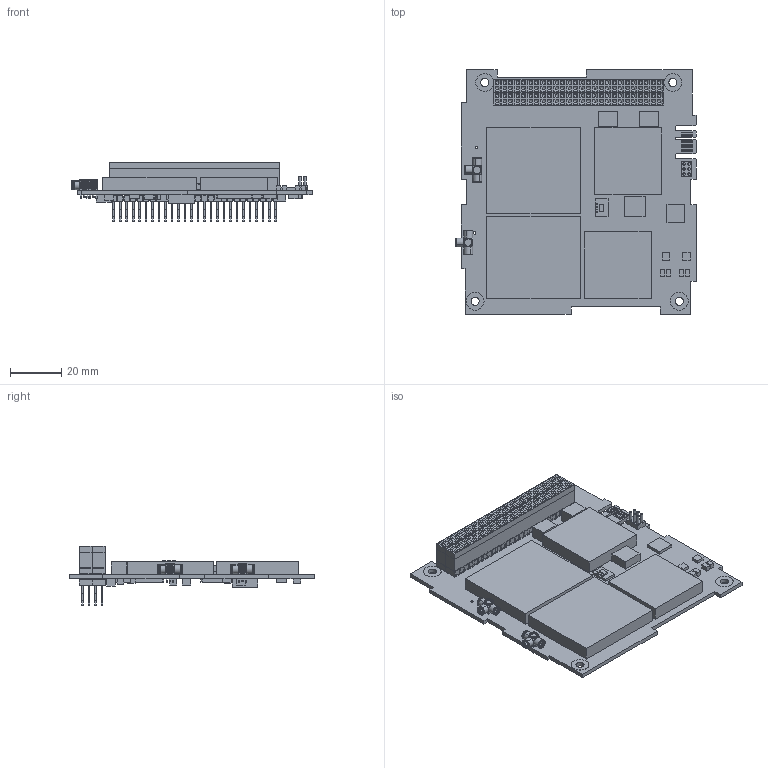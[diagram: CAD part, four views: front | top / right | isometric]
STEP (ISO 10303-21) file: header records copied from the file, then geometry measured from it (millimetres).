
FILE_DESCRIPTION((''),'2;1');
FILE_NAME('ISIS_TRXVU_ASMB_ASM','2017-05-10T',('jmig'),(''),'PRO/ENGINEER BY PARAMETRIC TECHNOLOGY CORPORATION, 2015110','PRO/ENGINEER BY PARAMETRIC TECHNOLOGY CORPORATION, 2015110','');
FILE_SCHEMA(('AUTOMOTIVE_DESIGN { 1 0 10303 214 1 1 1 1 }'));
Products named in the file (11): ISIS_TRXVU_PCB_COMPBOTTOM; SAMTEC-ESQ-126-38-G-D; SAMTEC-ESQ-126-39-G-D; SAMTEC-SSQ-126-21-G-D; SAMTEC-TSW-126-07-G-D; CSKB_CONNECTORS_ASM; 85_MMCX-50-0-1_111; 82_MMCX-50-0-1_111; TX_RF_CONNECTORS_ASM; RX_RF_CONNECTORS_ASM; ISIS_TRXVU_ASMB_ASM
Assembly tree (20 placements, depth 3):
  ISIS_TRXVU_ASMB_ASM
    ISIS_TRXVU_PCB_COMPBOTTOM
    CSKB_CONNECTORS_ASM
      SAMTEC-ESQ-126-38-G-D  x2
      SAMTEC-ESQ-126-39-G-D  x2
      SAMTEC-SSQ-126-21-G-D  x2
      SAMTEC-TSW-126-07-G-D  x2
    TX_RF_CONNECTORS_ASM
      85_MMCX-50-0-1_111  x3
      82_MMCX-50-0-1_111
    RX_RF_CONNECTORS_ASM
      85_MMCX-50-0-1_111  x3
      82_MMCX-50-0-1_111
Bounding box: 94.11 x 96 x 23.24 mm (x, y, z)
Volume: 55184.6 mm3; surface area: 57893.1 mm2
Topology: 17 solids, 17 shells, 16616 faces, 43165 edges, 26702 vertices
Faces by surface type: plane 15967, cylinder 429, cone 204, torus 16
Entity records: 312544 total; most frequent: CARTESIAN_POINT 44428, ORIENTED_EDGE 43814, DIRECTION 39711, EDGE_CURVE 21907, VECTOR 21212, LINE 21212, VERTEX_POINT 13590, EDGE_LOOP 9397
